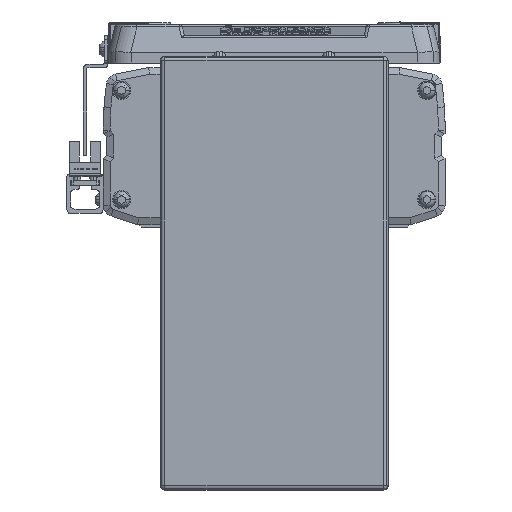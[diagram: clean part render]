
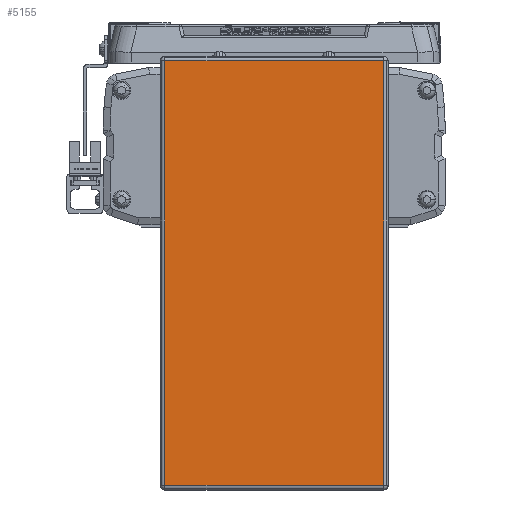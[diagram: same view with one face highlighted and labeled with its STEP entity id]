
A CAD part, left-side view. The second image highlights one B-rep face of the part: STEP entity #5155.
In plain terms, the highlighted planar face has unit normal (-1, 0, 0).
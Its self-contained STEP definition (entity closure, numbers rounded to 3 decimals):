
#5155=ADVANCED_FACE('',(#11583),#11584,.T.);
#11583=FACE_OUTER_BOUND('',#20517,.T.);
#11584=PLANE('',#20518);
#20517=EDGE_LOOP('',(#35116,#35117,#35118,#35119));
#20518=AXIS2_PLACEMENT_3D('',#35120,#35121,#35122);
#35116=ORIENTED_EDGE('',*,*,#52154,.F.);
#35117=ORIENTED_EDGE('',*,*,#53590,.F.);
#35118=ORIENTED_EDGE('',*,*,#51424,.F.);
#35119=ORIENTED_EDGE('',*,*,#49630,.F.);
#35120=CARTESIAN_POINT('',(-45.,0.,-64.2));
#35121=DIRECTION('',(-1.0,0.,0.));
#35122=DIRECTION('',(0.,1.0,0.));
#49630=EDGE_CURVE('',#59152,#59459,#59460,.T.);
#51424=EDGE_CURVE('',#59459,#62501,#62502,.T.);
#52154=EDGE_CURVE('',#63646,#59152,#63648,.T.);
#53590=EDGE_CURVE('',#62501,#63646,#65776,.T.);
#59152=VERTEX_POINT('',#72824);
#59459=VERTEX_POINT('',#73226);
#59460=LINE('',#73227,#73228);
#62501=VERTEX_POINT('',#77642);
#62502=LINE('',#77643,#77644);
#63646=VERTEX_POINT('',#79208);
#63648=LINE('',#79210,#79211);
#65776=LINE('',#82106,#82107);
#72824=CARTESIAN_POINT('',(-45.,-48.,29.));
#73226=CARTESIAN_POINT('',(-45.,-48.,-157.4));
#73227=CARTESIAN_POINT('',(-45.,-48.,-64.2));
#73228=VECTOR('',#90142,10.0);
#77642=CARTESIAN_POINT('',(-45.,48.,-157.4));
#77643=CARTESIAN_POINT('',(-45.,0.,-157.4));
#77644=VECTOR('',#92566,10.0);
#79208=CARTESIAN_POINT('',(-45.,48.,29.));
#79210=CARTESIAN_POINT('',(-45.,0.,29.));
#79211=VECTOR('',#93596,10.0);
#82106=CARTESIAN_POINT('',(-45.,48.,-64.2));
#82107=VECTOR('',#95442,10.0);
#90142=DIRECTION('',(0.,0.,-1.0));
#92566=DIRECTION('',(0.0,1.0,0.));
#93596=DIRECTION('',(0.0,-1.0,0.));
#95442=DIRECTION('',(0.,0.,1.0));
